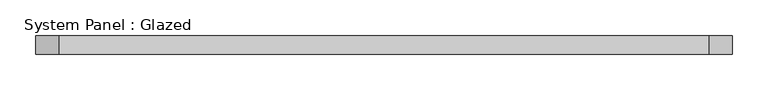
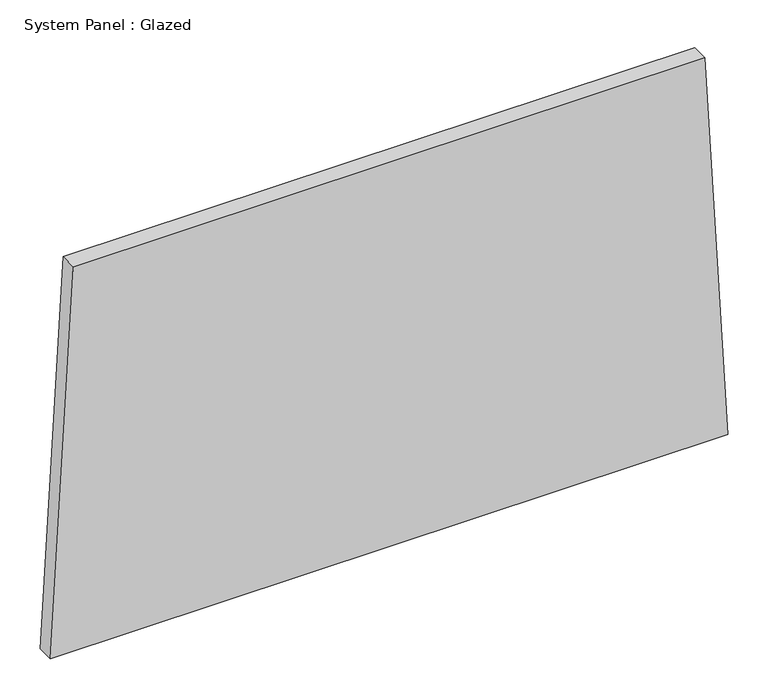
"""IFC4 building model written with IfcOpenShell, lengths in millimetres: plate geometry, System Panel : Glazed."""

from ifc_helpers import new_model, si_unit, frame, origin, place, context, project, spatial, polyline, outline, extrude, source, transform, mapped, element, save


def system_panel_glazed_5abcd2ca(model_context):
    return source(origin(), model_context, "Body", "SweptSolid", [
        extrude(outline(polyline([(0.0, -485.7931411), (0.0, 485.7931411), (583.2378441, 452.9854625), (583.2378441, -452.9854625), (0.0, -485.7931411)])), frame((0.0, -44.45, 0.0), z_axis=(0.0, 1.0, 0.0), x_axis=(0.0, 0.0, 1.0)), (0.0, 0.0, 1.0), 25.4),
    ])


if __name__ == "__main__":
    model = new_model("IFC4")
    model_context = context("Model", 3, world=origin())
    ifc_project = project(units=[si_unit("LENGTHUNIT", "METRE", prefix="MILLI")], contexts=[model_context])
    site = spatial("IfcSite", under=ifc_project)
    building = spatial("IfcBuilding", under=site)
    placement = place(None, origin())
    system_panel_glazed_shape = system_panel_glazed_5abcd2ca(model_context)
    element("IfcPlate", 1, ObjectType="System Panel : Glazed", at=placement, inside=building, context=model_context, shape_type="MappedRepresentation", body=[
        mapped(system_panel_glazed_shape, transform((0.0, 0.0, 0.0), x_axis=(1.0, 0.0, 0.0), y_axis=(0.0, 1.0, 0.0), z_axis=(0.0, 0.0, 1.0))),
    ])
    save(model, "model.ifc")
